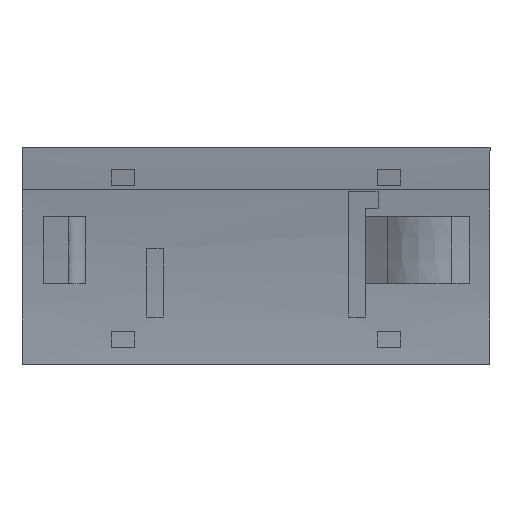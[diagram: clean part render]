
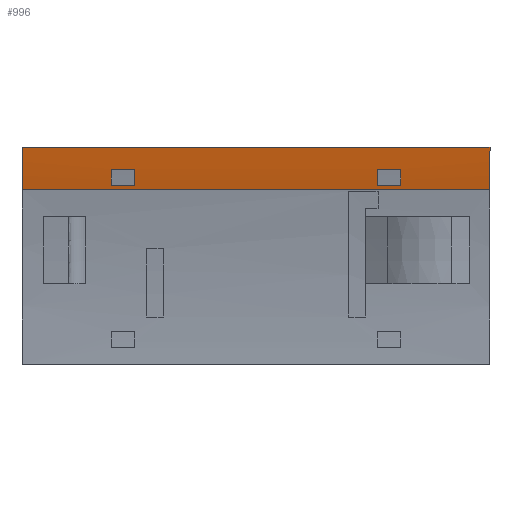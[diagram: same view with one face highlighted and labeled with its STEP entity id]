
A CAD part, left-side view. The second image highlights one B-rep face of the part: STEP entity #996.
In plain terms, the highlighted cylindrical face has radius 99.9 mm (diameter 199.8 mm), a partial arc.
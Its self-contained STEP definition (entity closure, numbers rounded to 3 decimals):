
#555 = CARTESIAN_POINT ( 'NONE',  ( -3.978, 42.55, 21.4 ) ) ;
#681 = EDGE_LOOP ( 'NONE', ( #778, #777, #782, #784 ) ) ;
#690 = EDGE_LOOP ( 'NONE', ( #791, #793, #785, #786 ) ) ;
#691 = EDGE_LOOP ( 'NONE', ( #779, #780, #783, #781 ) ) ;
#777 = ORIENTED_EDGE ( 'NONE', *, *, #2600, .F. ) ;
#778 = ORIENTED_EDGE ( 'NONE', *, *, #2599, .F. ) ;
#779 = ORIENTED_EDGE ( 'NONE', *, *, #2603, .F. ) ;
#780 = ORIENTED_EDGE ( 'NONE', *, *, #2604, .F. ) ;
#781 = ORIENTED_EDGE ( 'NONE', *, *, #2606, .F. ) ;
#782 = ORIENTED_EDGE ( 'NONE', *, *, #2601, .F. ) ;
#783 = ORIENTED_EDGE ( 'NONE', *, *, #2605, .F. ) ;
#784 = ORIENTED_EDGE ( 'NONE', *, *, #2602, .F. ) ;
#785 = ORIENTED_EDGE ( 'NONE', *, *, #2609, .F. ) ;
#786 = ORIENTED_EDGE ( 'NONE', *, *, #2597, .T. ) ;
#791 = ORIENTED_EDGE ( 'NONE', *, *, #2607, .T. ) ;
#793 = ORIENTED_EDGE ( 'NONE', *, *, #2608, .F. ) ;
#933 = VERTEX_POINT ( 'NONE', #2303 ) ;
#937 = VERTEX_POINT ( 'NONE', #2284 ) ;
#939 = VERTEX_POINT ( 'NONE', #2308 ) ;
#940 = VERTEX_POINT ( 'NONE', #2309 ) ;
#941 = VERTEX_POINT ( 'NONE', #2310 ) ;
#942 = VERTEX_POINT ( 'NONE', #2311 ) ;
#943 = VERTEX_POINT ( 'NONE', #2312 ) ;
#944 = VERTEX_POINT ( 'NONE', #2313 ) ;
#945 = VERTEX_POINT ( 'NONE', #2314 ) ;
#946 = VERTEX_POINT ( 'NONE', #2315 ) ;
#947 = VERTEX_POINT ( 'NONE', #2316 ) ;
#996 = ADVANCED_FACE ( 'NONE', ( #2473, #2466, #2476 ), #2475, .T. ) ;
#1360 = VERTEX_POINT ( 'NONE', #555 ) ;
#1893 = CARTESIAN_POINT ( 'NONE',  ( -5.08, 0., 26. ) ) ;
#1901 = LINE ( 'NONE', #1893, #2791 ) ;
#1905 = CARTESIAN_POINT ( 'NONE',  ( -3.978, 0., 21.4 ) ) ;
#1906 = DIRECTION ( 'NONE',  ( 0., 1., 0. ) ) ;
#1909 = LINE ( 'NONE', #1905, #2688 ) ;
#1910 = CARTESIAN_POINT ( 'NONE',  ( 92.597, 42.55, 46.96 ) ) ;
#1911 = DIRECTION ( 'NONE',  ( 0., 1., 0. ) ) ;
#1912 = DIRECTION ( 'NONE',  ( 0., 0., 1. ) ) ;
#1913 = CARTESIAN_POINT ( 'NONE',  ( -4.485, 0., 23.4 ) ) ;
#1914 = DIRECTION ( 'NONE',  ( 0., -1., 0. ) ) ;
#1915 = CARTESIAN_POINT ( 'NONE',  ( -4.485, 0., 23.4 ) ) ;
#1916 = LINE ( 'NONE', #1923, #2758 ) ;
#1917 = LINE ( 'NONE', #1913, #2755 ) ;
#1918 = CARTESIAN_POINT ( 'NONE',  ( 92.597, 45.35, 46.96 ) ) ;
#1919 = DIRECTION ( 'NONE',  ( 0., -1., 0. ) ) ;
#1920 = DIRECTION ( 'NONE',  ( 0., 0., -1. ) ) ;
#1921 = LINE ( 'NONE', #1915, #2773 ) ;
#1922 = DIRECTION ( 'NONE',  ( 0., 1., 0. ) ) ;
#1923 = CARTESIAN_POINT ( 'NONE',  ( -3.978, 0., 21.4 ) ) ;
#1924 = DIRECTION ( 'NONE',  ( 0., -1., 0. ) ) ;
#1925 = CARTESIAN_POINT ( 'NONE',  ( 92.597, 13.45, 46.96 ) ) ;
#1926 = DIRECTION ( 'NONE',  ( 0., -1., 0. ) ) ;
#1927 = DIRECTION ( 'NONE',  ( 0., 0., -1. ) ) ;
#1928 = DIRECTION ( 'NONE',  ( 0., 1., 0. ) ) ;
#1929 = LINE ( 'NONE', #1930, #2792 ) ;
#1930 = CARTESIAN_POINT ( 'NONE',  ( -3.851, 0., 20.923 ) ) ;
#1931 = CARTESIAN_POINT ( 'NONE',  ( 92.597, 10.65, 46.96 ) ) ;
#1932 = DIRECTION ( 'NONE',  ( 0., 1., 0. ) ) ;
#1933 = DIRECTION ( 'NONE',  ( 0., 0., 1. ) ) ;
#1936 = CARTESIAN_POINT ( 'NONE',  ( 92.597, 56., 46.96 ) ) ;
#1937 = DIRECTION ( 'NONE',  ( 0., -1., 0. ) ) ;
#1938 = DIRECTION ( 'NONE',  ( 0., 0., 1. ) ) ;
#1939 = DIRECTION ( 'NONE',  ( 0., 1., 0. ) ) ;
#1940 = CARTESIAN_POINT ( 'NONE',  ( 92.597, 0., 46.96 ) ) ;
#1941 = DIRECTION ( 'NONE',  ( 0., -1., 0. ) ) ;
#1942 = DIRECTION ( 'NONE',  ( 0., 0., 1. ) ) ;
#2284 = CARTESIAN_POINT ( 'NONE',  ( -4.485, 42.55, 23.4 ) ) ;
#2303 = CARTESIAN_POINT ( 'NONE',  ( -5.08, 0., 26. ) ) ;
#2308 = CARTESIAN_POINT ( 'NONE',  ( -3.978, 13.45, 21.4 ) ) ;
#2309 = CARTESIAN_POINT ( 'NONE',  ( -5.08, 56., 26. ) ) ;
#2310 = CARTESIAN_POINT ( 'NONE',  ( -4.485, 13.45, 23.4 ) ) ;
#2311 = CARTESIAN_POINT ( 'NONE',  ( -3.978, 45.35, 21.4 ) ) ;
#2312 = CARTESIAN_POINT ( 'NONE',  ( -4.485, 45.35, 23.4 ) ) ;
#2313 = CARTESIAN_POINT ( 'NONE',  ( -3.851, 56., 20.923 ) ) ;
#2314 = CARTESIAN_POINT ( 'NONE',  ( -3.851, 0., 20.923 ) ) ;
#2315 = CARTESIAN_POINT ( 'NONE',  ( -3.978, 10.65, 21.4 ) ) ;
#2316 = CARTESIAN_POINT ( 'NONE',  ( -4.485, 10.65, 23.4 ) ) ;
#2456 = DIRECTION ( 'NONE',  ( 0., 0., -1. ) ) ;
#2466 = FACE_BOUND ( 'NONE', #691, .T. ) ;
#2473 = FACE_BOUND ( 'NONE', #681, .T. ) ;
#2474 = DIRECTION ( 'NONE',  ( 0., 1., 0. ) ) ;
#2475 = CYLINDRICAL_SURFACE ( 'NONE', #2710, 99.9 ) ;
#2476 = FACE_OUTER_BOUND ( 'NONE', #690, .T. ) ;
#2477 = CARTESIAN_POINT ( 'NONE',  ( 92.597, 0., 46.96 ) ) ;
#2597 = EDGE_CURVE ( 'NONE', #933, #940, #1901, .T. ) ;
#2599 = EDGE_CURVE ( 'NONE', #1360, #937, #2822, .T. ) ;
#2600 = EDGE_CURVE ( 'NONE', #942, #1360, #1909, .T. ) ;
#2601 = EDGE_CURVE ( 'NONE', #943, #942, #2748, .T. ) ;
#2602 = EDGE_CURVE ( 'NONE', #937, #943, #1917, .T. ) ;
#2603 = EDGE_CURVE ( 'NONE', #939, #946, #1916, .T. ) ;
#2604 = EDGE_CURVE ( 'NONE', #941, #939, #2769, .T. ) ;
#2605 = EDGE_CURVE ( 'NONE', #947, #941, #1921, .T. ) ;
#2606 = EDGE_CURVE ( 'NONE', #946, #947, #2781, .T. ) ;
#2607 = EDGE_CURVE ( 'NONE', #940, #944, #2784, .T. ) ;
#2608 = EDGE_CURVE ( 'NONE', #945, #944, #1929, .T. ) ;
#2609 = EDGE_CURVE ( 'NONE', #933, #945, #2689, .T. ) ;
#2688 = VECTOR ( 'NONE', #1914, 1000. ) ;
#2689 = CIRCLE ( 'NONE', #2697, 99.9 ) ;
#2697 = AXIS2_PLACEMENT_3D ( 'NONE', #1940, #1941, #1942 ) ;
#2710 = AXIS2_PLACEMENT_3D ( 'NONE', #2477, #2474, #2456 ) ;
#2748 = CIRCLE ( 'NONE', #2762, 99.9 ) ;
#2751 = AXIS2_PLACEMENT_3D ( 'NONE', #1910, #1911, #1912 ) ;
#2755 = VECTOR ( 'NONE', #1922, 1000. ) ;
#2758 = VECTOR ( 'NONE', #1924, 1000. ) ;
#2762 = AXIS2_PLACEMENT_3D ( 'NONE', #1918, #1919, #1920 ) ;
#2769 = CIRCLE ( 'NONE', #2777, 99.9 ) ;
#2773 = VECTOR ( 'NONE', #1928, 1000. ) ;
#2777 = AXIS2_PLACEMENT_3D ( 'NONE', #1925, #1926, #1927 ) ;
#2781 = CIRCLE ( 'NONE', #2788, 99.9 ) ;
#2784 = CIRCLE ( 'NONE', #2796, 99.9 ) ;
#2788 = AXIS2_PLACEMENT_3D ( 'NONE', #1931, #1932, #1933 ) ;
#2791 = VECTOR ( 'NONE', #1906, 1000. ) ;
#2792 = VECTOR ( 'NONE', #1939, 1000. ) ;
#2796 = AXIS2_PLACEMENT_3D ( 'NONE', #1936, #1937, #1938 ) ;
#2822 = CIRCLE ( 'NONE', #2751, 99.9 ) ;
